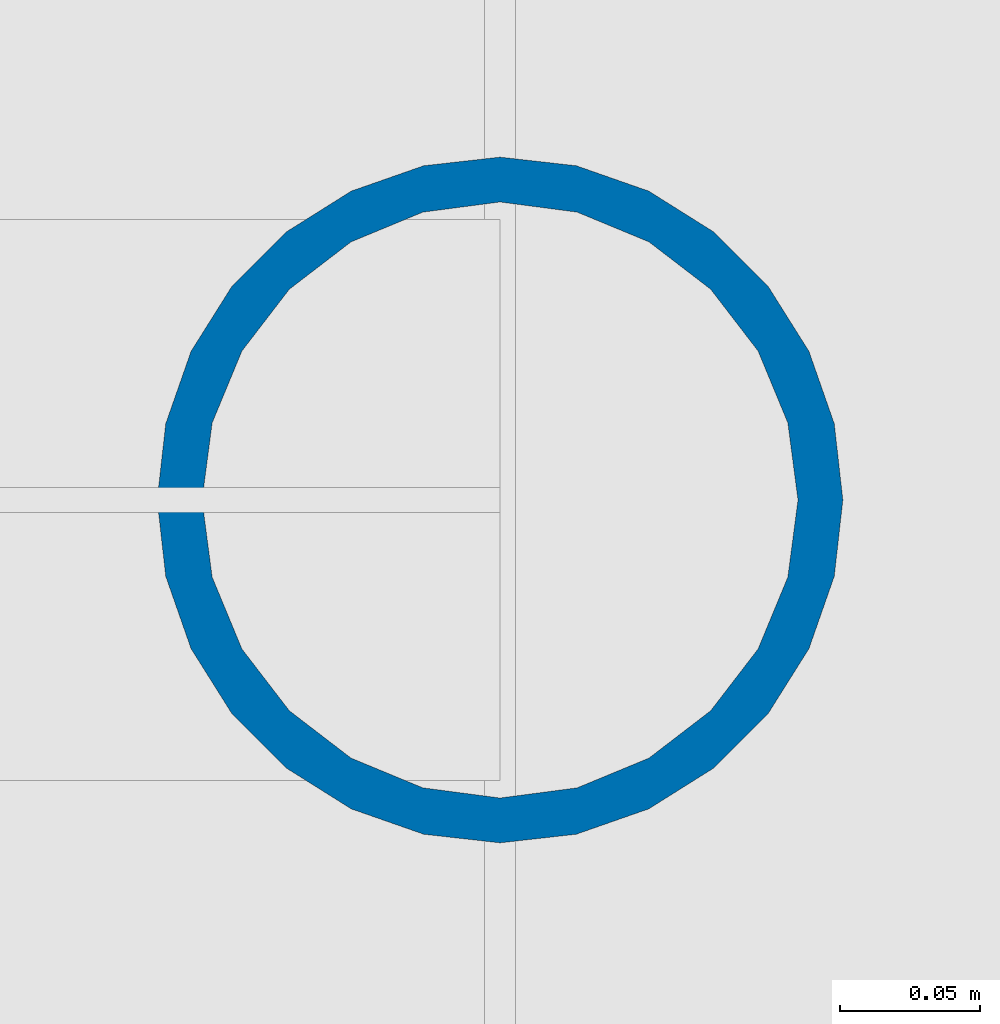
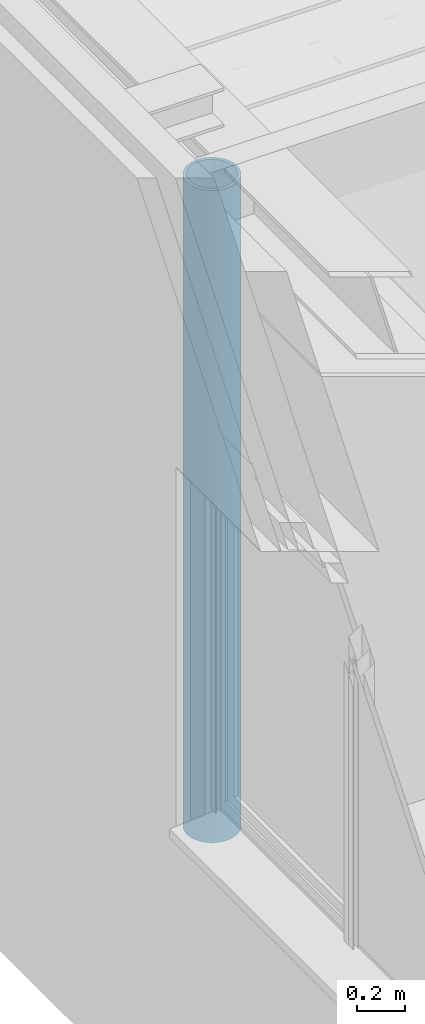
# One storey, part 9 of 260: 1 column.
"""IFC2X3 building model written with IfcOpenShell, lengths in millimetres."""

from ifc_helpers import new_model, entity, si_unit, converted_unit, derived_unit, money_unit, direction, frame, origin_with_axes, place, context, subcontext, project, spatial, faceted_brep, material, type_object, element, save


model = new_model("IFC2X3")

# Units and contexts
model_context = context("Model", 3, precision=0.01, world=origin_with_axes(), true_north=direction((0.0, 1.0)))
plan_context = context("Plan", 3, precision=0.01, world=origin_with_axes(), true_north=direction((0.0, 1.0)))
body_context = subcontext(model_context, "Body", "Model", "MODEL_VIEW")
ifc_project = project(units=[si_unit("LENGTHUNIT", "METRE", prefix="MILLI"), si_unit("AREAUNIT", "SQUARE_METRE"), si_unit("VOLUMEUNIT", "CUBIC_METRE"), converted_unit("PLANEANGLEUNIT", "DEGREE", entity("IfcPlaneAngleMeasure", 0.0174532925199), si_unit("PLANEANGLEUNIT", "RADIAN"), dimensions=[0, 0, 0, 0, 0, 0, 0]), money_unit("EUR"), converted_unit("TIMEUNIT", "Year", entity("IfcTimeMeasure", 31556926.0), si_unit("TIMEUNIT", "SECOND"), dimensions=[0, 0, 1, 0, 0, 0, 0]), si_unit("MASSUNIT", "GRAM", prefix="KILO"), si_unit("THERMODYNAMICTEMPERATUREUNIT", "DEGREE_CELSIUS"), si_unit("LUMINOUSINTENSITYUNIT", "LUMEN"), si_unit("ENERGYUNIT", "JOULE", prefix="MEGA"), derived_unit("THERMALCONDUCTANCEUNIT", [(si_unit("POWERUNIT", "WATT"), 1), (si_unit("LENGTHUNIT", "METRE"), -1), (si_unit("THERMODYNAMICTEMPERATUREUNIT", "KELVIN"), -1)]), derived_unit("SPECIFICHEATCAPACITYUNIT", [(si_unit("ENERGYUNIT", "JOULE"), 1), (si_unit("MASSUNIT", "GRAM", prefix="KILO"), -1), (si_unit("THERMODYNAMICTEMPERATUREUNIT", "KELVIN"), -1)]), derived_unit("MASSDENSITYUNIT", [(si_unit("MASSUNIT", "GRAM", prefix="KILO"), 1), (si_unit("VOLUMEUNIT", "CUBIC_METRE"), -1)])], contexts=[model_context, plan_context])

# Site, building, storey
site_placement = place(None, origin_with_axes())
site = spatial("IfcSite", under=ifc_project, at=site_placement, Name="Site", CompositionType="ELEMENT")
building_placement = place(site_placement, origin_with_axes())
building = spatial("IfcBuilding", under=site, at=building_placement, Name="Naam gebouw", CompositionType="ELEMENT")
storey_placement = place(building_placement, frame((0.0, 0.0, 3960.0), z_axis=(0.0, 0.0, 1.0), x_axis=(1.0, 0.0, 0.0)))
storey = spatial("IfcBuildingStorey", under=building, at=storey_placement, Name="verdieping", CompositionType="ELEMENT", Elevation=3960.0)

# Column
ifc_material = material(Name="Metaal - Staal C wit")
column_type = type_object("IfcColumnType", Name="Lucht D245", PredefinedType="COLUMN")
column_placement = place(storey_placement, frame((24575.0, 36200.0, -70.0), z_axis=(0.0, 0.0, 1.0), x_axis=(1.0, 0.0, 0.0)))
element("IfcColumn", 1, at=column_placement, inside=storey, type_object=column_type, material=ifc_material, Name="28_kolom ø 273mm", ObjectType="COLUMN", context=body_context, shape_type="Brep", body=[
    faceted_brep([(-122.25, 0.0, 0.0), (-119.184937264, -27.2031841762, 0.0), (-119.184937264, -27.2031841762, 3330.0), (-122.25, 0.0, 3330.0), (-119.184937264, 27.2031841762, 0.0), (-110.143444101, 53.0422871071, 0.0), (-95.5788987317, 76.2216282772, 0.0), (-76.2216282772, 95.5788987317, 0.0), (-53.0422871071, 110.143444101, 0.0), (-27.2031841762, 119.184937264, 0.0), (0.0, 122.25, 0.0), (27.2031841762, 119.184937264, 0.0), (53.0422871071, 110.143444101, 0.0), (76.2216282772, 95.5788987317, 0.0), (95.5788987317, 76.2216282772, 0.0), (110.143444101, 53.0422871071, 0.0), (119.184937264, 27.2031841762, 0.0), (122.25, 0.0, 0.0), (119.184937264, -27.2031841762, 0.0), (110.143444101, -53.0422871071, 0.0), (95.5788987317, -76.2216282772, 0.0), (76.2216282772, -95.5788987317, 0.0), (53.0422871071, -110.143444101, 0.0), (27.2031841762, -119.184937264, 0.0), (0.0, -122.25, 0.0), (-27.2031841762, -119.184937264, 0.0), (-53.0422871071, -110.143444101, 0.0), (-76.2216282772, -95.5788987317, 0.0), (-95.5788987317, -76.2216282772, 0.0), (-110.143444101, -53.0422871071, 0.0), (-106.25, 0.0, 0.0), (-102.629619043, -27.4995235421, 0.0), (-92.0151991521, -53.125, 0.0), (-75.1300955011, -75.1300955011, 0.0), (-53.125, -92.0151991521, 0.0), (-27.4995235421, -102.629619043, 0.0), (0.0, -106.25, 0.0), (27.4995235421, -102.629619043, 0.0), (53.125, -92.0151991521, 0.0), (75.1300955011, -75.1300955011, 0.0), (92.0151991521, -53.125, 0.0), (102.629619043, -27.4995235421, 0.0), (106.25, 0.0, 0.0), (102.629619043, 27.4995235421, 0.0), (92.0151991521, 53.125, 0.0), (75.1300955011, 75.1300955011, 0.0), (53.125, 92.0151991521, 0.0), (27.4995235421, 102.629619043, 0.0), (0.0, 106.25, 0.0), (-27.4995235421, 102.629619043, 0.0), (-53.125, 92.0151991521, 0.0), (-75.1300955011, 75.1300955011, 0.0), (-92.0151991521, 53.125, 0.0), (-102.629619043, 27.4995235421, 0.0), (-110.143444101, -53.0422871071, 3330.0), (-95.5788987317, -76.2216282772, 3330.0), (-76.2216282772, -95.5788987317, 3330.0), (-53.0422871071, -110.143444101, 3330.0), (-27.2031841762, -119.184937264, 3330.0), (0.0, -122.25, 3330.0), (27.2031841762, -119.184937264, 3330.0), (53.0422871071, -110.143444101, 3330.0), (76.2216282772, -95.5788987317, 3330.0), (95.5788987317, -76.2216282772, 3330.0), (110.143444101, -53.0422871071, 3330.0), (119.184937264, -27.2031841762, 3330.0), (122.25, 0.0, 3330.0), (119.184937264, 27.2031841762, 3330.0), (110.143444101, 53.0422871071, 3330.0), (95.5788987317, 76.2216282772, 3330.0), (76.2216282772, 95.5788987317, 3330.0), (53.0422871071, 110.143444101, 3330.0), (27.2031841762, 119.184937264, 3330.0), (0.0, 122.25, 3330.0), (-27.2031841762, 119.184937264, 3330.0), (-53.0422871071, 110.143444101, 3330.0), (-76.2216282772, 95.5788987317, 3330.0), (-95.5788987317, 76.2216282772, 3330.0), (-110.143444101, 53.0422871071, 3330.0), (-119.184937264, 27.2031841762, 3330.0), (-106.25, 0.0, 3330.0), (-102.629619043, 27.4995235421, 3330.0), (-92.0151991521, 53.125, 3330.0), (-75.1300955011, 75.1300955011, 3330.0), (-53.125, 92.0151991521, 3330.0), (-27.4995235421, 102.629619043, 3330.0), (0.0, 106.25, 3330.0), (27.4995235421, 102.629619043, 3330.0), (53.125, 92.0151991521, 3330.0), (75.1300955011, 75.1300955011, 3330.0), (92.0151991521, 53.125, 3330.0), (102.629619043, 27.4995235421, 3330.0), (106.25, 0.0, 3330.0), (102.629619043, -27.4995235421, 3330.0), (92.0151991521, -53.125, 3330.0), (75.1300955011, -75.1300955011, 3330.0), (53.125, -92.0151991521, 3330.0), (27.4995235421, -102.629619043, 3330.0), (0.0, -106.25, 3330.0), (-27.4995235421, -102.629619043, 3330.0), (-53.125, -92.0151991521, 3330.0), (-75.1300955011, -75.1300955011, 3330.0), (-92.0151991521, -53.125, 3330.0), (-102.629619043, -27.4995235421, 3330.0)], [[[0, 1, 2, 3]], [[0, 4, 5, 6, 7, 8, 9, 10, 11, 12, 13, 14, 15, 16, 17, 18, 19, 20, 21, 22, 23, 24, 25, 26, 27, 28, 29, 1], [30, 31, 32, 33, 34, 35, 36, 37, 38, 39, 40, 41, 42, 43, 44, 45, 46, 47, 48, 49, 50, 51, 52, 53]], [[1, 29, 54, 2]], [[3, 2, 54, 55, 56, 57, 58, 59, 60, 61, 62, 63, 64, 65, 66, 67, 68, 69, 70, 71, 72, 73, 74, 75, 76, 77, 78, 79], [80, 81, 82, 83, 84, 85, 86, 87, 88, 89, 90, 91, 92, 93, 94, 95, 96, 97, 98, 99, 100, 101, 102, 103]], [[4, 0, 3, 79]], [[5, 4, 79, 78]], [[6, 5, 78, 77]], [[7, 6, 77, 76]], [[8, 7, 76, 75]], [[9, 8, 75, 74]], [[10, 9, 74, 73]], [[11, 10, 73, 72]], [[12, 11, 72, 71]], [[13, 12, 71, 70]], [[14, 13, 70, 69]], [[15, 14, 69, 68]], [[16, 15, 68, 67]], [[17, 16, 67, 66]], [[18, 17, 66, 65]], [[19, 18, 65, 64]], [[20, 19, 64, 63]], [[21, 20, 63, 62]], [[22, 21, 62, 61]], [[23, 22, 61, 60]], [[24, 23, 60, 59]], [[25, 24, 59, 58]], [[26, 25, 58, 57]], [[27, 26, 57, 56]], [[28, 27, 56, 55]], [[29, 28, 55, 54]], [[31, 30, 80, 103]], [[32, 31, 103, 102]], [[33, 32, 102, 101]], [[34, 33, 101, 100]], [[35, 34, 100, 99]], [[36, 35, 99, 98]], [[37, 36, 98, 97]], [[38, 37, 97, 96]], [[39, 38, 96, 95]], [[40, 39, 95, 94]], [[41, 40, 94, 93]], [[42, 41, 93, 92]], [[43, 42, 92, 91]], [[44, 43, 91, 90]], [[45, 44, 90, 89]], [[46, 45, 89, 88]], [[47, 46, 88, 87]], [[48, 47, 87, 86]], [[49, 48, 86, 85]], [[50, 49, 85, 84]], [[51, 50, 84, 83]], [[52, 51, 83, 82]], [[53, 52, 82, 81]], [[30, 53, 81, 80]]]),
])

save(model, "model.ifc")
